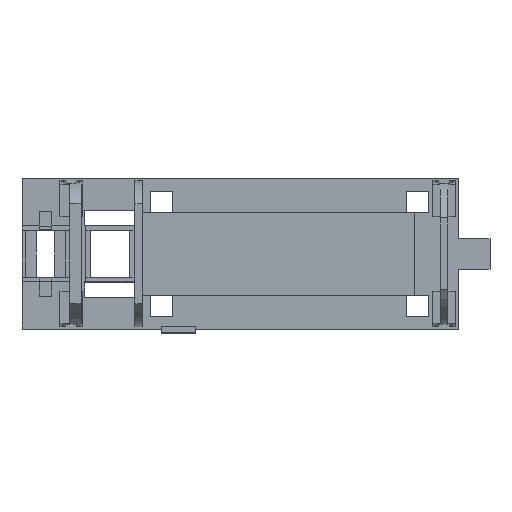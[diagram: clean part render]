
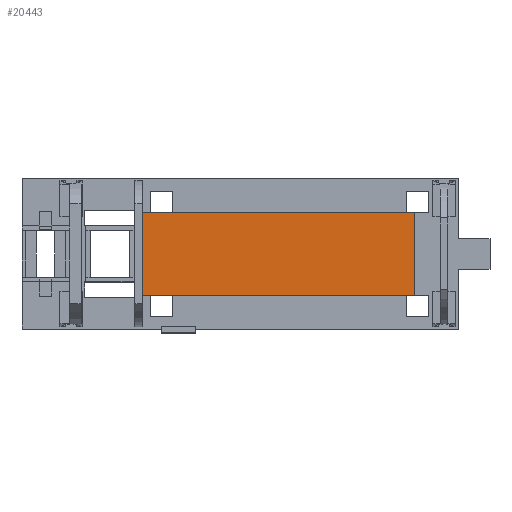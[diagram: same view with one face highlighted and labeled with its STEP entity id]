
A CAD part, top view. The second image highlights one B-rep face of the part: STEP entity #20443.
In plain terms, the highlighted planar face has unit normal (0, 0, 1).
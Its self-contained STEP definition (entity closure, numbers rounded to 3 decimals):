
#20142 = PLANE('',#20143);
#20143 = AXIS2_PLACEMENT_3D('',#20144,#20145,#20146);
#20144 = CARTESIAN_POINT('',(58.59,11.,6.));
#20145 = DIRECTION('',(-0.,1.,0.));
#20146 = DIRECTION('',(0.,0.,1.));
#20194 = PLANE('',#20195);
#20195 = AXIS2_PLACEMENT_3D('',#20196,#20197,#20198);
#20196 = CARTESIAN_POINT('',(58.59,-11.,6.));
#20197 = DIRECTION('',(-0.,1.,0.));
#20198 = DIRECTION('',(0.,0.,1.));
#20294 = VERTEX_POINT('',#20295);
#20295 = CARTESIAN_POINT('',(58.59,11.,7.2));
#20309 = PLANE('',#20310);
#20310 = AXIS2_PLACEMENT_3D('',#20311,#20312,#20313);
#20311 = CARTESIAN_POINT('',(58.59,-11.,6.));
#20312 = DIRECTION('',(1.,0.,-0.));
#20313 = DIRECTION('',(0.,0.,1.));
#20321 = EDGE_CURVE('',#20294,#20322,#20324,.T.);
#20322 = VERTEX_POINT('',#20323);
#20323 = CARTESIAN_POINT('',(130.4,11.,7.2));
#20324 = SURFACE_CURVE('',#20325,(#20329,#20336),.PCURVE_S1.);
#20325 = LINE('',#20326,#20327);
#20326 = CARTESIAN_POINT('',(58.59,11.,7.2));
#20327 = VECTOR('',#20328,1.);
#20328 = DIRECTION('',(1.,0.,-0.));
#20329 = PCURVE('',#20142,#20330);
#20330 = DEFINITIONAL_REPRESENTATION('',(#20331),#20335);
#20331 = LINE('',#20332,#20333);
#20332 = CARTESIAN_POINT('',(1.2,0.));
#20333 = VECTOR('',#20334,1.);
#20334 = DIRECTION('',(0.,1.));
#20335 = ( GEOMETRIC_REPRESENTATION_CONTEXT(2) 
PARAMETRIC_REPRESENTATION_CONTEXT() REPRESENTATION_CONTEXT('2D SPACE',''
  ) );
#20336 = PCURVE('',#20337,#20342);
#20337 = PLANE('',#20338);
#20338 = AXIS2_PLACEMENT_3D('',#20339,#20340,#20341);
#20339 = CARTESIAN_POINT('',(58.59,-11.,7.2));
#20340 = DIRECTION('',(0.,0.,1.));
#20341 = DIRECTION('',(1.,0.,-0.));
#20342 = DEFINITIONAL_REPRESENTATION('',(#20343),#20347);
#20343 = LINE('',#20344,#20345);
#20344 = CARTESIAN_POINT('',(0.,22.));
#20345 = VECTOR('',#20346,1.);
#20346 = DIRECTION('',(1.,0.));
#20347 = ( GEOMETRIC_REPRESENTATION_CONTEXT(2) 
PARAMETRIC_REPRESENTATION_CONTEXT() REPRESENTATION_CONTEXT('2D SPACE',''
  ) );
#20363 = PLANE('',#20364);
#20364 = AXIS2_PLACEMENT_3D('',#20365,#20366,#20367);
#20365 = CARTESIAN_POINT('',(130.4,-3.5,0.99));
#20366 = DIRECTION('',(1.,0.,-0.));
#20367 = DIRECTION('',(0.,0.,1.));
#20381 = VERTEX_POINT('',#20382);
#20382 = CARTESIAN_POINT('',(58.59,-11.,7.2));
#20423 = EDGE_CURVE('',#20381,#20294,#20424,.T.);
#20424 = SURFACE_CURVE('',#20425,(#20429,#20436),.PCURVE_S1.);
#20425 = LINE('',#20426,#20427);
#20426 = CARTESIAN_POINT('',(58.59,-11.,7.2));
#20427 = VECTOR('',#20428,1.);
#20428 = DIRECTION('',(-0.,1.,0.));
#20429 = PCURVE('',#20309,#20430);
#20430 = DEFINITIONAL_REPRESENTATION('',(#20431),#20435);
#20431 = LINE('',#20432,#20433);
#20432 = CARTESIAN_POINT('',(1.2,0.));
#20433 = VECTOR('',#20434,1.);
#20434 = DIRECTION('',(0.,-1.));
#20435 = ( GEOMETRIC_REPRESENTATION_CONTEXT(2) 
PARAMETRIC_REPRESENTATION_CONTEXT() REPRESENTATION_CONTEXT('2D SPACE',''
  ) );
#20436 = PCURVE('',#20337,#20437);
#20437 = DEFINITIONAL_REPRESENTATION('',(#20438),#20442);
#20438 = LINE('',#20439,#20440);
#20439 = CARTESIAN_POINT('',(0.,0.));
#20440 = VECTOR('',#20441,1.);
#20441 = DIRECTION('',(0.,1.));
#20442 = ( GEOMETRIC_REPRESENTATION_CONTEXT(2) 
PARAMETRIC_REPRESENTATION_CONTEXT() REPRESENTATION_CONTEXT('2D SPACE',''
  ) );
#20443 = ADVANCED_FACE('',(#20444),#20337,.T.);
#20444 = FACE_BOUND('',#20445,.T.);
#20445 = EDGE_LOOP('',(#20446,#20447,#20470,#20491));
#20446 = ORIENTED_EDGE('',*,*,#20423,.F.);
#20447 = ORIENTED_EDGE('',*,*,#20448,.T.);
#20448 = EDGE_CURVE('',#20381,#20449,#20451,.T.);
#20449 = VERTEX_POINT('',#20450);
#20450 = CARTESIAN_POINT('',(130.4,-11.,7.2));
#20451 = SURFACE_CURVE('',#20452,(#20456,#20463),.PCURVE_S1.);
#20452 = LINE('',#20453,#20454);
#20453 = CARTESIAN_POINT('',(58.59,-11.,7.2));
#20454 = VECTOR('',#20455,1.);
#20455 = DIRECTION('',(1.,0.,-0.));
#20456 = PCURVE('',#20337,#20457);
#20457 = DEFINITIONAL_REPRESENTATION('',(#20458),#20462);
#20458 = LINE('',#20459,#20460);
#20459 = CARTESIAN_POINT('',(0.,0.));
#20460 = VECTOR('',#20461,1.);
#20461 = DIRECTION('',(1.,0.));
#20462 = ( GEOMETRIC_REPRESENTATION_CONTEXT(2) 
PARAMETRIC_REPRESENTATION_CONTEXT() REPRESENTATION_CONTEXT('2D SPACE',''
  ) );
#20463 = PCURVE('',#20194,#20464);
#20464 = DEFINITIONAL_REPRESENTATION('',(#20465),#20469);
#20465 = LINE('',#20466,#20467);
#20466 = CARTESIAN_POINT('',(1.2,0.));
#20467 = VECTOR('',#20468,1.);
#20468 = DIRECTION('',(0.,1.));
#20469 = ( GEOMETRIC_REPRESENTATION_CONTEXT(2) 
PARAMETRIC_REPRESENTATION_CONTEXT() REPRESENTATION_CONTEXT('2D SPACE',''
  ) );
#20470 = ORIENTED_EDGE('',*,*,#20471,.T.);
#20471 = EDGE_CURVE('',#20449,#20322,#20472,.T.);
#20472 = SURFACE_CURVE('',#20473,(#20477,#20484),.PCURVE_S1.);
#20473 = LINE('',#20474,#20475);
#20474 = CARTESIAN_POINT('',(130.4,-11.,7.2));
#20475 = VECTOR('',#20476,1.);
#20476 = DIRECTION('',(-0.,1.,0.));
#20477 = PCURVE('',#20337,#20478);
#20478 = DEFINITIONAL_REPRESENTATION('',(#20479),#20483);
#20479 = LINE('',#20480,#20481);
#20480 = CARTESIAN_POINT('',(71.81,0.));
#20481 = VECTOR('',#20482,1.);
#20482 = DIRECTION('',(0.,1.));
#20483 = ( GEOMETRIC_REPRESENTATION_CONTEXT(2) 
PARAMETRIC_REPRESENTATION_CONTEXT() REPRESENTATION_CONTEXT('2D SPACE',''
  ) );
#20484 = PCURVE('',#20363,#20485);
#20485 = DEFINITIONAL_REPRESENTATION('',(#20486),#20490);
#20486 = LINE('',#20487,#20488);
#20487 = CARTESIAN_POINT('',(6.21,7.5));
#20488 = VECTOR('',#20489,1.);
#20489 = DIRECTION('',(0.,-1.));
#20490 = ( GEOMETRIC_REPRESENTATION_CONTEXT(2) 
PARAMETRIC_REPRESENTATION_CONTEXT() REPRESENTATION_CONTEXT('2D SPACE',''
  ) );
#20491 = ORIENTED_EDGE('',*,*,#20321,.F.);
